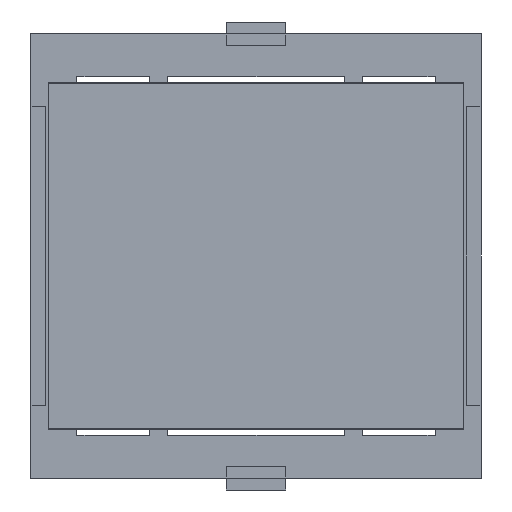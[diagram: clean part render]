
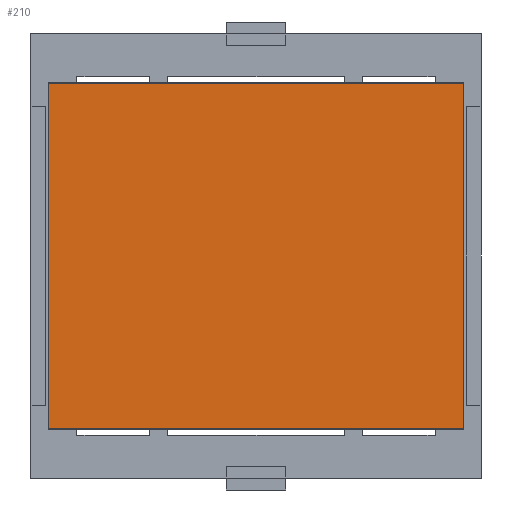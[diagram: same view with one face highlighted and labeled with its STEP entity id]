
A CAD part, front view. The second image highlights one B-rep face of the part: STEP entity #210.
In plain terms, the highlighted planar face has unit normal (0, -1, 0).
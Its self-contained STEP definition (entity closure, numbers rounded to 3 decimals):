
#56 = CARTESIAN_POINT ( 'NONE',  ( -15.712, -18.701, -2.749 ) ) ;
#80 = EDGE_CURVE ( 'NONE', #2096, #6453, #2737, .T. ) ;
#97 = DIRECTION ( 'NONE',  ( 0., 0., 1. ) ) ;
#187 = VERTEX_POINT ( 'NONE', #5343 ) ;
#210 = ADVANCED_FACE ( 'NONE', ( #6941 ), #1977, .F. ) ;
#616 = AXIS2_PLACEMENT_3D ( 'NONE', #4155, #922, #1443 ) ;
#647 = VECTOR ( 'NONE', #5576, 1000. ) ;
#922 = DIRECTION ( 'NONE',  ( 0., 1., 0. ) ) ;
#940 = ORIENTED_EDGE ( 'NONE', *, *, #3028, .F. ) ;
#1212 = EDGE_CURVE ( 'NONE', #6453, #5415, #3873, .T. ) ;
#1443 = DIRECTION ( 'NONE',  ( 0., 0., 1. ) ) ;
#1763 = LINE ( 'NONE', #3396, #647 ) ;
#1772 = CARTESIAN_POINT ( 'NONE',  ( -15.712, -18.701, -2.749 ) ) ;
#1977 = PLANE ( 'NONE',  #616 ) ;
#2050 = LINE ( 'NONE', #5273, #5330 ) ;
#2096 = VERTEX_POINT ( 'NONE', #5628 ) ;
#2737 = LINE ( 'NONE', #1772, #6609 ) ;
#3028 = EDGE_CURVE ( 'NONE', #187, #2096, #2050, .T. ) ;
#3396 = CARTESIAN_POINT ( 'NONE',  ( -15.712, -18.701, 26.207 ) ) ;
#3642 = ORIENTED_EDGE ( 'NONE', *, *, #1212, .F. ) ;
#3796 = ORIENTED_EDGE ( 'NONE', *, *, #80, .F. ) ;
#3873 = LINE ( 'NONE', #56, #4174 ) ;
#3913 = DIRECTION ( 'NONE',  ( -1., 0., 0. ) ) ;
#4155 = CARTESIAN_POINT ( 'NONE',  ( -15.712, -18.701, 26.207 ) ) ;
#4174 = VECTOR ( 'NONE', #97, 1000. ) ;
#4624 = DIRECTION ( 'NONE',  ( 0., 0., -1. ) ) ;
#5087 = CARTESIAN_POINT ( 'NONE',  ( -15.712, -18.701, -2.749 ) ) ;
#5273 = CARTESIAN_POINT ( 'NONE',  ( 19.086, -18.701, -2.749 ) ) ;
#5330 = VECTOR ( 'NONE', #4624, 1000. ) ;
#5343 = CARTESIAN_POINT ( 'NONE',  ( 19.086, -18.701, 26.207 ) ) ;
#5415 = VERTEX_POINT ( 'NONE', #6767 ) ;
#5576 = DIRECTION ( 'NONE',  ( 1., 0., 0. ) ) ;
#5628 = CARTESIAN_POINT ( 'NONE',  ( 19.086, -18.701, -2.749 ) ) ;
#5742 = EDGE_LOOP ( 'NONE', ( #3642, #3796, #940, #6149 ) ) ;
#6149 = ORIENTED_EDGE ( 'NONE', *, *, #6499, .F. ) ;
#6453 = VERTEX_POINT ( 'NONE', #5087 ) ;
#6499 = EDGE_CURVE ( 'NONE', #5415, #187, #1763, .T. ) ;
#6609 = VECTOR ( 'NONE', #3913, 1000. ) ;
#6767 = CARTESIAN_POINT ( 'NONE',  ( -15.712, -18.701, 26.207 ) ) ;
#6941 = FACE_OUTER_BOUND ( 'NONE', #5742, .T. ) ;
